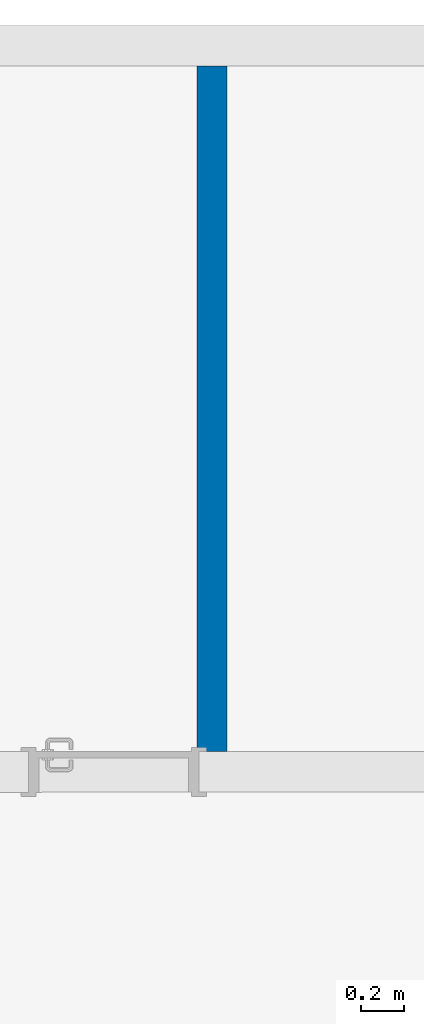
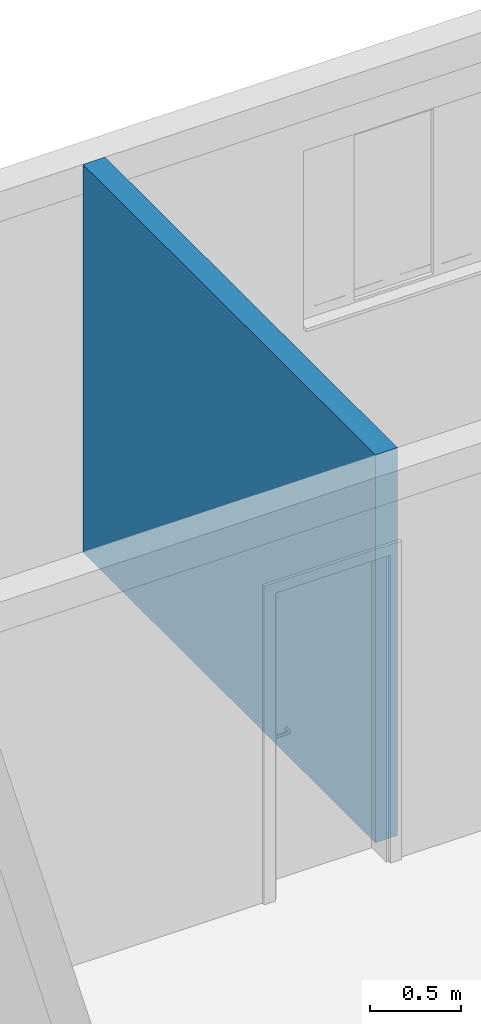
# One storey, part 37 of 43: 1 wall.
"""IFC2X3 building model written with IfcOpenShell, lengths in millimetres."""

from ifc_helpers import new_model, entity, si_unit, converted_unit, derived_unit, money_unit, direction, frame, origin_with_axes, place, context, subcontext, project, spatial, polyline, outline, extrude, material, layer, layer_set, layer_usage, type_object, element, save


model = new_model("IFC2X3")

# Units and contexts
model_context = context("Model", 3, precision=0.01, world=origin_with_axes(), true_north=direction((0.0, 1.0)))
body_context = subcontext(model_context, "Body", "Model", "MODEL_VIEW")
ifc_project = project(units=[si_unit("LENGTHUNIT", "METRE", prefix="MILLI"), si_unit("AREAUNIT", "SQUARE_METRE"), si_unit("VOLUMEUNIT", "CUBIC_METRE"), converted_unit("PLANEANGLEUNIT", "DEGREE", entity("IfcPlaneAngleMeasure", 0.0174532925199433), si_unit("PLANEANGLEUNIT", "RADIAN"), dimensions=[0, 0, 0, 0, 0, 0, 0]), money_unit("USD"), converted_unit("TIMEUNIT", "Year", entity("IfcTimeMeasure", 31557600.0), si_unit("TIMEUNIT", "SECOND"), dimensions=[0, 0, 1, 0, 0, 0, 0]), si_unit("MASSUNIT", "GRAM", prefix="KILO"), si_unit("THERMODYNAMICTEMPERATUREUNIT", "DEGREE_CELSIUS"), si_unit("LUMINOUSINTENSITYUNIT", "LUMEN"), si_unit("ENERGYUNIT", "JOULE", prefix="MEGA"), derived_unit("THERMALCONDUCTANCEUNIT", [(si_unit("POWERUNIT", "WATT"), 1), (si_unit("LENGTHUNIT", "METRE"), -1), (si_unit("THERMODYNAMICTEMPERATUREUNIT", "KELVIN"), -1)]), derived_unit("SPECIFICHEATCAPACITYUNIT", [(si_unit("ENERGYUNIT", "JOULE"), 1), (si_unit("MASSUNIT", "GRAM", prefix="KILO"), -1), (si_unit("THERMODYNAMICTEMPERATUREUNIT", "KELVIN"), -1)]), derived_unit("MASSDENSITYUNIT", [(si_unit("MASSUNIT", "GRAM", prefix="KILO"), 1), (si_unit("VOLUMEUNIT", "CUBIC_METRE"), -1)])], contexts=[model_context])

# Site, building, storey
site_placement = place(None, origin_with_axes())
site = spatial("IfcSite", under=ifc_project, at=site_placement, Name="Local", CompositionType="ELEMENT")
building_placement = place(site_placement, origin_with_axes())
building = spatial("IfcBuilding", under=site, at=building_placement, Name="Construção", CompositionType="ELEMENT")
storey_placement = place(building_placement, origin_with_axes())
storey = spatial("IfcBuildingStorey", under=building, at=storey_placement, Name="Pavimento Tipo", CompositionType="ELEMENT", Elevation=0.0)

# Wall
ifc_material = material(Name="Concreto")
ifc_layer = layer(ifc_material, 140.0, ventilated="UNKNOWN")
ifc_layer_set = layer_set([ifc_layer], Name="Concreto 140")
ifc_layer_usage = layer_usage(ifc_layer_set, "AXIS2", "NEGATIVE", 0.0)
wall_type = type_object("IfcWallType", Name="Concreto 140", PredefinedType="NOTDEFINED")
wall_placement = place(storey_placement, frame((66679.53415063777, 8844.271842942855, 0.0), z_axis=(0.0, 0.0, 1.0), x_axis=(0.0, 1.0, 0.0)))
element("IfcWallStandardCase", 1, at=wall_placement, inside=storey, type_object=wall_type, material=ifc_layer_usage, Name="Apartamento 1 - Parede-060", context=body_context, shape_type="SweptSolid", body=[
    extrude(outline(polyline([(190.0450202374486, -140.0000000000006), (3401.093110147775, -140.0000000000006), (3401.093110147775, 0.0), (190.0000098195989, 0.0), (190.0450202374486, -140.0000000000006)])), origin_with_axes(), (0.0, 0.0, 1.0), 2600.0),
])

save(model, "model.ifc")
